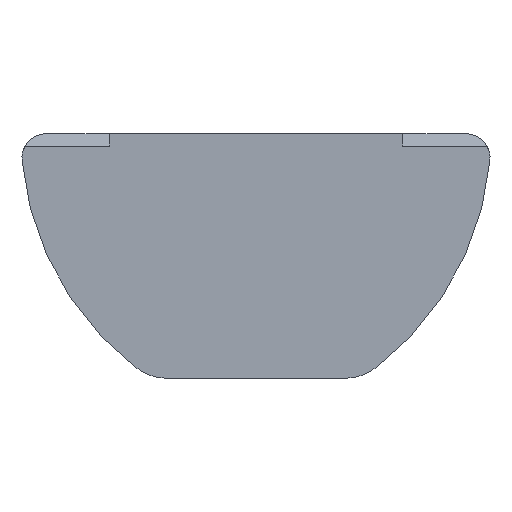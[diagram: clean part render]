
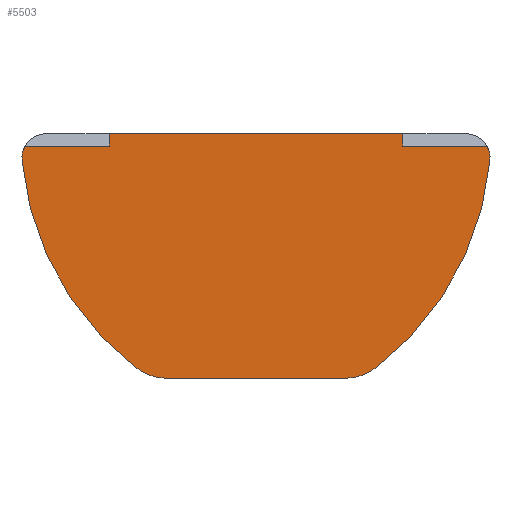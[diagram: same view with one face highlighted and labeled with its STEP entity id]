
A CAD part, front view. The second image highlights one B-rep face of the part: STEP entity #5503.
In plain terms, the highlighted planar face has unit normal (0, -1, 0).
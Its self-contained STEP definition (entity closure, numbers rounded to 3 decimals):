
#31 = DIRECTION ( 'NONE',  ( 1., 0., 0. ) ) ;
#123 = DIRECTION ( 'NONE',  ( 0., 0., -1. ) ) ;
#185 = CARTESIAN_POINT ( 'NONE',  ( 4.786, -7.8, -0.544 ) ) ;
#193 = VERTEX_POINT ( 'NONE', #4607 ) ;
#203 = CARTESIAN_POINT ( 'NONE',  ( -3., -7.8, 0. ) ) ;
#224 = EDGE_CURVE ( 'NONE', #3116, #3531, #2052, .T. ) ;
#238 = DIRECTION ( 'NONE',  ( 0., -1., 0. ) ) ;
#333 = CARTESIAN_POINT ( 'NONE',  ( -4.788, -7.8, -0.25 ) ) ;
#391 = CIRCLE ( 'NONE', #2608, 0.5 ) ;
#497 = CIRCLE ( 'NONE', #1182, 1. ) ;
#567 = VECTOR ( 'NONE', #3622, 1000. ) ;
#639 = FACE_OUTER_BOUND ( 'NONE', #1532, .T. ) ;
#713 = ORIENTED_EDGE ( 'NONE', *, *, #4441, .T. ) ;
#720 = DIRECTION ( 'NONE',  ( -1., 0., 0. ) ) ;
#737 = ORIENTED_EDGE ( 'NONE', *, *, #3060, .T. ) ;
#763 = EDGE_CURVE ( 'NONE', #2177, #193, #391, .T. ) ;
#776 = CIRCLE ( 'NONE', #5056, 6. ) ;
#783 = CARTESIAN_POINT ( 'NONE',  ( 4.288, -7.8, -0.5 ) ) ;
#904 = CARTESIAN_POINT ( 'NONE',  ( -4.288, -7.8, -0.5 ) ) ;
#975 = LINE ( 'NONE', #333, #4295 ) ;
#1033 = VERTEX_POINT ( 'NONE', #2844 ) ;
#1082 = DIRECTION ( 'NONE',  ( 0., 0., 1. ) ) ;
#1112 = AXIS2_PLACEMENT_3D ( 'NONE', #2814, #238, #3259 ) ;
#1182 = AXIS2_PLACEMENT_3D ( 'NONE', #1341, #4381, #1774 ) ;
#1215 = DIRECTION ( 'NONE',  ( 0., 0., -1. ) ) ;
#1276 = AXIS2_PLACEMENT_3D ( 'NONE', #783, #3804, #1215 ) ;
#1341 = CARTESIAN_POINT ( 'NONE',  ( -1.831, -7.8, -4. ) ) ;
#1343 = DIRECTION ( 'NONE',  ( 0., 0., -1. ) ) ;
#1368 = EDGE_CURVE ( 'NONE', #3136, #3468, #5411, .T. ) ;
#1424 = CARTESIAN_POINT ( 'NONE',  ( -4.288, -7.8, -0.5 ) ) ;
#1425 = CARTESIAN_POINT ( 'NONE',  ( -1.19, -7.8, -0.016 ) ) ;
#1469 = CARTESIAN_POINT ( 'NONE',  ( -4.288, -7.8, -0.25 ) ) ;
#1517 = ORIENTED_EDGE ( 'NONE', *, *, #224, .F. ) ;
#1532 = EDGE_LOOP ( 'NONE', ( #2267, #4009, #3672, #3308, #4879, #737, #2498, #713, #3107, #5510, #5260, #1517 ) ) ;
#1623 = CARTESIAN_POINT ( 'NONE',  ( -3., -7.8, 0. ) ) ;
#1667 = CARTESIAN_POINT ( 'NONE',  ( 3., -7.8, 0. ) ) ;
#1774 = DIRECTION ( 'NONE',  ( 0., 0., -1. ) ) ;
#1787 = CIRCLE ( 'NONE', #4868, 6. ) ;
#1802 = DIRECTION ( 'NONE',  ( 0., -1., 0. ) ) ;
#1856 = DIRECTION ( 'NONE',  ( 0., 0., -1. ) ) ;
#2052 = LINE ( 'NONE', #203, #5552 ) ;
#2177 = VERTEX_POINT ( 'NONE', #2805 ) ;
#2233 = VERTEX_POINT ( 'NONE', #2526 ) ;
#2267 = ORIENTED_EDGE ( 'NONE', *, *, #4768, .F. ) ;
#2314 = VECTOR ( 'NONE', #3642, 1000. ) ;
#2376 = EDGE_CURVE ( 'NONE', #193, #4202, #1787, .T. ) ;
#2439 = CARTESIAN_POINT ( 'NONE',  ( 1.831, -7.8, -5. ) ) ;
#2498 = ORIENTED_EDGE ( 'NONE', *, *, #5041, .T. ) ;
#2526 = CARTESIAN_POINT ( 'NONE',  ( 2.435, -7.8, -4.797 ) ) ;
#2566 = EDGE_CURVE ( 'NONE', #1033, #4311, #4020, .T. ) ;
#2608 = AXIS2_PLACEMENT_3D ( 'NONE', #904, #3938, #1343 ) ;
#2623 = CARTESIAN_POINT ( 'NONE',  ( 1.831, -7.8, -5. ) ) ;
#2670 = EDGE_CURVE ( 'NONE', #4519, #3531, #3474, .T. ) ;
#2714 = DIRECTION ( 'NONE',  ( 0., -1., 0. ) ) ;
#2805 = CARTESIAN_POINT ( 'NONE',  ( -4.721, -7.8, -0.25 ) ) ;
#2814 = CARTESIAN_POINT ( 'NONE',  ( 1.831, -7.8, -4. ) ) ;
#2844 = CARTESIAN_POINT ( 'NONE',  ( 4.721, -7.8, -0.25 ) ) ;
#2905 = DIRECTION ( 'NONE',  ( 1., 0., 0. ) ) ;
#3060 = EDGE_CURVE ( 'NONE', #3468, #2233, #4187, .T. ) ;
#3107 = ORIENTED_EDGE ( 'NONE', *, *, #2566, .T. ) ;
#3116 = VERTEX_POINT ( 'NONE', #3849 ) ;
#3136 = VERTEX_POINT ( 'NONE', #3411 ) ;
#3259 = DIRECTION ( 'NONE',  ( 0., 0., -1. ) ) ;
#3305 = CARTESIAN_POINT ( 'NONE',  ( -4.288, -7.8, 0. ) ) ;
#3308 = ORIENTED_EDGE ( 'NONE', *, *, #4639, .T. ) ;
#3411 = CARTESIAN_POINT ( 'NONE',  ( -1.831, -7.8, -5. ) ) ;
#3468 = VERTEX_POINT ( 'NONE', #2439 ) ;
#3472 = LINE ( 'NONE', #4066, #2314 ) ;
#3474 = LINE ( 'NONE', #3305, #4792 ) ;
#3531 = VERTEX_POINT ( 'NONE', #1623 ) ;
#3622 = DIRECTION ( 'NONE',  ( -1., 0., 0. ) ) ;
#3642 = DIRECTION ( 'NONE',  ( 0., 0., 1. ) ) ;
#3672 = ORIENTED_EDGE ( 'NONE', *, *, #2376, .T. ) ;
#3697 = CARTESIAN_POINT ( 'NONE',  ( 3., -7.8, -0.25 ) ) ;
#3762 = CIRCLE ( 'NONE', #1276, 0.5 ) ;
#3803 = VERTEX_POINT ( 'NONE', #185 ) ;
#3804 = DIRECTION ( 'NONE',  ( 0., -1., 0. ) ) ;
#3849 = CARTESIAN_POINT ( 'NONE',  ( -3., -7.8, -0.25 ) ) ;
#3938 = DIRECTION ( 'NONE',  ( 0., -1., 0. ) ) ;
#4009 = ORIENTED_EDGE ( 'NONE', *, *, #763, .T. ) ;
#4020 = LINE ( 'NONE', #1469, #567 ) ;
#4042 = CARTESIAN_POINT ( 'NONE',  ( -2.435, -7.8, -4.797 ) ) ;
#4066 = CARTESIAN_POINT ( 'NONE',  ( 3., -7.8, 0. ) ) ;
#4187 = CIRCLE ( 'NONE', #1112, 1. ) ;
#4202 = VERTEX_POINT ( 'NONE', #4042 ) ;
#4219 = EDGE_CURVE ( 'NONE', #4311, #4519, #3472, .T. ) ;
#4295 = VECTOR ( 'NONE', #2905, 1000. ) ;
#4311 = VERTEX_POINT ( 'NONE', #3697 ) ;
#4381 = DIRECTION ( 'NONE',  ( 0., -1., 0. ) ) ;
#4413 = CARTESIAN_POINT ( 'NONE',  ( 1.19, -7.8, -0.016 ) ) ;
#4441 = EDGE_CURVE ( 'NONE', #3803, #1033, #3762, .T. ) ;
#4477 = DIRECTION ( 'NONE',  ( 0., -1., 0. ) ) ;
#4519 = VERTEX_POINT ( 'NONE', #1667 ) ;
#4607 = CARTESIAN_POINT ( 'NONE',  ( -4.786, -7.8, -0.544 ) ) ;
#4639 = EDGE_CURVE ( 'NONE', #4202, #3136, #497, .T. ) ;
#4768 = EDGE_CURVE ( 'NONE', #2177, #3116, #975, .T. ) ;
#4792 = VECTOR ( 'NONE', #720, 1000. ) ;
#4858 = DIRECTION ( 'NONE',  ( 0., 0., -1. ) ) ;
#4868 = AXIS2_PLACEMENT_3D ( 'NONE', #4413, #1802, #4858 ) ;
#4879 = ORIENTED_EDGE ( 'NONE', *, *, #1368, .T. ) ;
#4913 = PLANE ( 'NONE',  #5023 ) ;
#5023 = AXIS2_PLACEMENT_3D ( 'NONE', #1424, #2714, #123 ) ;
#5041 = EDGE_CURVE ( 'NONE', #2233, #3803, #776, .T. ) ;
#5056 = AXIS2_PLACEMENT_3D ( 'NONE', #1425, #4477, #1856 ) ;
#5260 = ORIENTED_EDGE ( 'NONE', *, *, #2670, .T. ) ;
#5273 = VECTOR ( 'NONE', #31, 1000. ) ;
#5411 = LINE ( 'NONE', #2623, #5273 ) ;
#5503 = ADVANCED_FACE ( 'NONE', ( #639 ), #4913, .T. ) ;
#5510 = ORIENTED_EDGE ( 'NONE', *, *, #4219, .T. ) ;
#5552 = VECTOR ( 'NONE', #1082, 1000. ) ;
